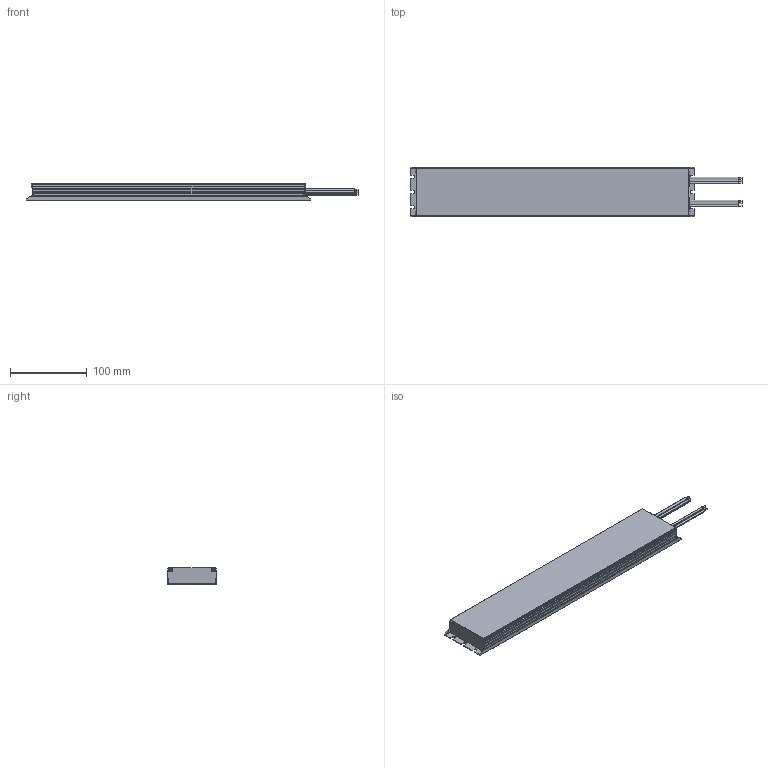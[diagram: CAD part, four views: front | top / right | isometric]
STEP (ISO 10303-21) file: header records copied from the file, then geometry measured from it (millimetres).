
FILE_DESCRIPTION((''),'2;1');
FILE_NAME('15013179Z_DMECDRIV_372X65X22_A','2019-12-11T11:46:50',('juergen.hrach'),(''),'CREO PARAMETRIC BY PTC INC, 2019164','CREO PARAMETRIC BY PTC INC, 2019164','');
FILE_SCHEMA(('CONFIG_CONTROL_DESIGN'));
Length unit declared in the file: millimetre
Products named in the file (1): 15013179Z_DMECDRIV_372X65X22_A
Bounding box: 433.5 x 65 x 22 mm (x, y, z)
Volume: 505397 mm3; surface area: 78718.9 mm2
Topology: 1 solids, 1 shells, 432 faces, 1124 edges, 712 vertices
Faces by surface type: cylinder 188, plane 180, torus 36, sphere 12, bspline 12, cone 4
Entity records: 15896 total; most frequent: CARTESIAN_POINT 5110, DIRECTION 2316, ORIENTED_EDGE 2224, EDGE_CURVE 1112, AXIS2_PLACEMENT_3D 868, VERTEX_POINT 712, VECTOR 580, LINE 580
